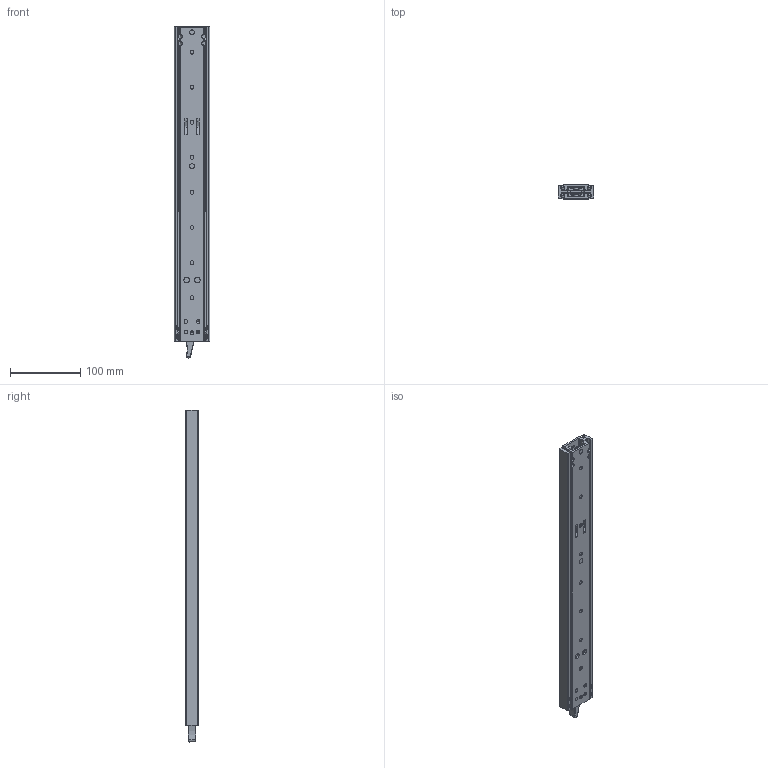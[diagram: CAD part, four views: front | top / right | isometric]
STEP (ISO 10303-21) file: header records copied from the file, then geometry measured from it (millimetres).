
FILE_DESCRIPTION (( 'STEP AP214' ), '1' );
FILE_NAME ('220-450-closed.STEP', '2024-08-20T10:40:09', ( '' ), ( '' ), 'SwSTEP 2.0', 'SolidWorks 2024', '' );
FILE_SCHEMA (( 'AUTOMOTIVE_DESIGN' ));
Length unit declared in the file: millimetre
Products named in the file (11): 370_002_070_6.STEP_Part73; 61_12279_08.STEP_Part67; 61_12282_6.STEP_Part70; 61_13331_Pin Fitted_6.STEP_Part69; 61_12280_08_Beam Assembled - Stop Raises .STEP_Part68; 220-450-closed; 61_12274_6.STEP_Part72; 61_12278_11.STEP_Part76; 301_000_008_Fitted_6.STEP_Part71; 61_12284_08_closed.STEP_Assem13; 400_000_004_6.STEP_Part75
Assembly tree (25 placements, depth 3):
  220-450-closed
    61_12284_08_closed.STEP_Assem13
      61_12279_08.STEP_Part67
      61_12280_08_Beam Assembled - Stop Raises .STEP_Part68  x2
      61_13331_Pin Fitted_6.STEP_Part69  x4
      61_12282_6.STEP_Part70
      301_000_008_Fitted_6.STEP_Part71  x2
      61_12274_6.STEP_Part72
      370_002_070_6.STEP_Part73
      400_000_004_6.STEP_Part75  x8
      61_12278_11.STEP_Part76  x4
Bounding box: 50.7 x 19.75 x 473.69 mm (x, y, z)
Volume: 257462.1 mm3; surface area: 178252.9 mm2
Topology: 24 solids, 24 shells, 1178 faces, 3074 edges, 1940 vertices
Faces by surface type: cylinder 504, plane 265, sphere 248, cone 84, torus 51, bspline 26
Entity records: 24342 total; most frequent: CARTESIAN_POINT 7192, DIRECTION 3702, ORIENTED_EDGE 3468, EDGE_CURVE 1734, AXIS2_PLACEMENT_3D 1481, VERTEX_POINT 1089, CIRCLE 812, EDGE_LOOP 779
